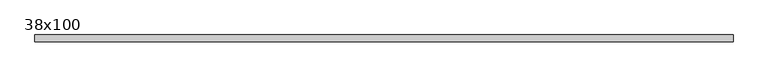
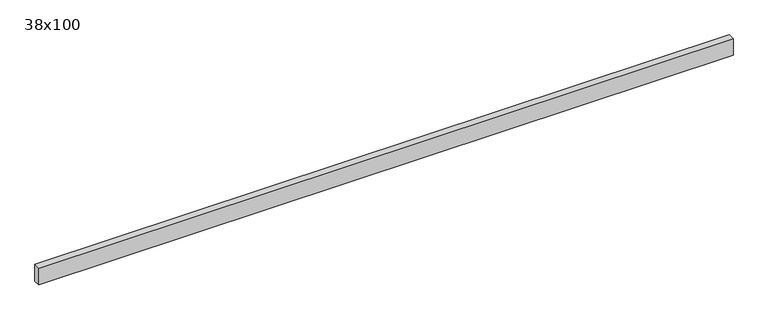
"""IFC4 building model written with IfcOpenShell, lengths in millimetres: beam geometry, Poutre - Bois de construction de dimensions courantes : 38x100."""

from ifc_helpers import new_model, si_unit, frame, origin, place, context, project, spatial, polyline, outline, extrude, source, transform, mapped, element, save


def beam_38x100_53379356(model_context):
    return source(origin(), model_context, "Body", "SweptSolid", [
        extrude(outline(polyline([(1885.5, 19.05), (1885.5, -19.05), (-2045.5, -19.05), (-2045.5, 19.05), (1885.5, 19.05)])), frame((0.0, 0.0, -50.0), z_axis=(0.0, 0.0, 1.0), x_axis=(1.0, 0.0, 0.0)), (0.0, 0.0, 1.0), 100.0),
    ])


if __name__ == "__main__":
    model = new_model("IFC4")
    model_context = context("Model", 3, world=origin())
    ifc_project = project(units=[si_unit("LENGTHUNIT", "METRE", prefix="MILLI")], contexts=[model_context])
    site = spatial("IfcSite", under=ifc_project)
    building = spatial("IfcBuilding", under=site)
    placement = place(None, origin())
    beam_38x100_shape = beam_38x100_53379356(model_context)
    element("IfcBeam", 1, ObjectType="Poutre - Bois de construction de dimensions courantes : 38x100", at=placement, inside=building, context=model_context, shape_type="MappedRepresentation", body=[
        mapped(beam_38x100_shape, transform((0.0, 0.0, 0.0), x_axis=(1.0, 0.0, 0.0), y_axis=(0.0, 1.0, 0.0), z_axis=(0.0, 0.0, 1.0))),
    ])
    save(model, "model.ifc")
